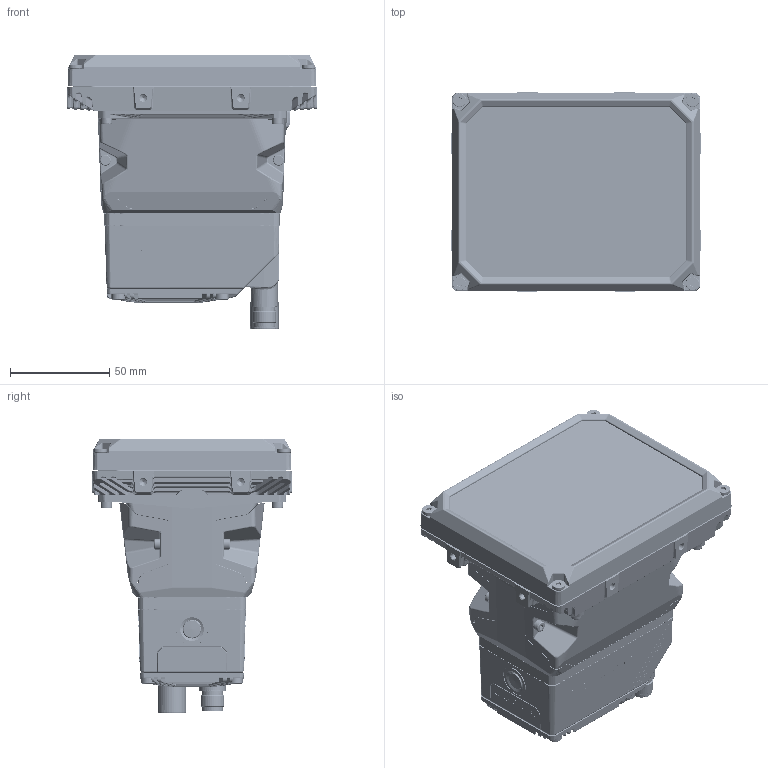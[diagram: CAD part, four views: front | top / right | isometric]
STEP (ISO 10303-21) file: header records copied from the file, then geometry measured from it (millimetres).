
FILE_DESCRIPTION(/* description */ (''),/* implementation_level */ '2;1');
FILE_NAME(/* name */ 'AP035887_00-P2X C-Mount 36 led 90_ portrait.stp',/* time_stamp */ '2022-03-16T16:16:04+01:00',/* author */ (''),/* organization */ (''),/* preprocessor_version */ 'ST-DEVELOPER v16.7',/* originating_system */ 'SIEMENS PLM Software NX 1946',/* authorisation */ '');
FILE_SCHEMA (('AUTOMOTIVE_DESIGN { 1 0 10303 214 3 1 1 1 }'));
Products named in the file (1): FGutB01403CDtyo2
Bounding box: 126 x 101 x 138.21 mm (x, y, z)
Volume: 607040.5 mm3; surface area: 117908.5 mm2
Topology: 1 solids, 25 shells, 7414 faces, 17794 edges, 10389 vertices
Faces by surface type: bspline 2370, cylinder 2255, plane 2070, cone 264, torus 243, sphere 128, extrusion 84
Full cylindrical faces by diameter (mm): 0.6 x7, 2.3 x4, 3.2 x5, 3.3 x17, 3.5 x5, 5.5 x8, 6.2 x4, 6.9 x4, 7 x3, 9.5 x2, 10.5 x1, 10.7 x1, 10.8 x1, 11.15 x1, 11.85 x1, 12.2 x1, 13.5 x2, 14 x1, 15 x1, 16 x1
Entity records: 286277 total; most frequent: CARTESIAN_POINT 106740, ORIENTED_EDGE 34558, DIRECTION 30170, EDGE_CURVE 17279, AXIS2_PLACEMENT_3D 11739, VERTEX_POINT 10302, EDGE_LOOP 7824, ADVANCED_FACE 7412
